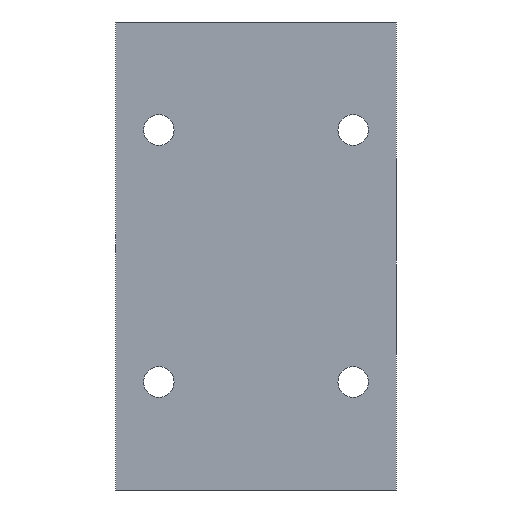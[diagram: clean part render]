
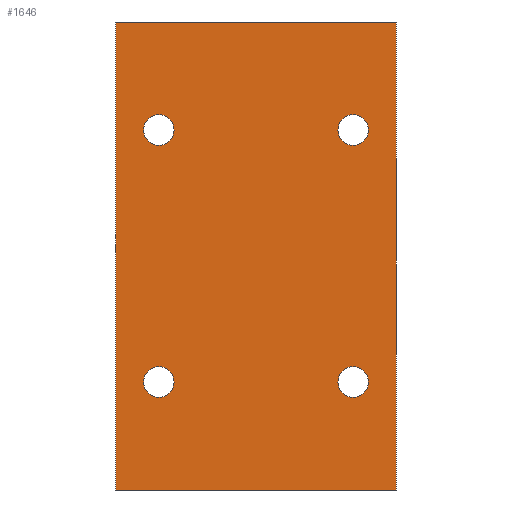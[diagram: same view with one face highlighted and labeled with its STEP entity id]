
A CAD part, front view. The second image highlights one B-rep face of the part: STEP entity #1646.
In plain terms, the highlighted planar face has unit normal (0, -1, 0).
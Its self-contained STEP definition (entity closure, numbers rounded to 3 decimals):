
#6 = VERTEX_POINT ( 'NONE', #1484 ) ;
#17 = CIRCLE ( 'NONE', #497, 4.25 ) ;
#18 = CARTESIAN_POINT ( 'NONE',  ( 39., -30., 65. ) ) ;
#34 = ORIENTED_EDGE ( 'NONE', *, *, #1710, .F. ) ;
#73 = FACE_BOUND ( 'NONE', #1876, .T. ) ;
#79 = DIRECTION ( 'NONE',  ( 0., -1., 0. ) ) ;
#92 = ORIENTED_EDGE ( 'NONE', *, *, #552, .F. ) ;
#127 = ORIENTED_EDGE ( 'NONE', *, *, #1261, .F. ) ;
#129 = DIRECTION ( 'NONE',  ( 0., 0., -1. ) ) ;
#140 = CARTESIAN_POINT ( 'NONE',  ( -27., -30., -30.75 ) ) ;
#167 = VERTEX_POINT ( 'NONE', #140 ) ;
#213 = CIRCLE ( 'NONE', #500, 4.25 ) ;
#215 = FACE_BOUND ( 'NONE', #1781, .T. ) ;
#234 = LINE ( 'NONE', #929, #683 ) ;
#236 = CARTESIAN_POINT ( 'NONE',  ( 27., -30., 35. ) ) ;
#261 = EDGE_CURVE ( 'NONE', #1835, #1976, #1370, .T. ) ;
#292 = DIRECTION ( 'NONE',  ( 0., -1., 0. ) ) ;
#383 = DIRECTION ( 'NONE',  ( 0., -1., 0. ) ) ;
#387 = ORIENTED_EDGE ( 'NONE', *, *, #1081, .F. ) ;
#398 = CARTESIAN_POINT ( 'NONE',  ( 27., -30., -35. ) ) ;
#435 = AXIS2_PLACEMENT_3D ( 'NONE', #1515, #292, #2191 ) ;
#451 = CARTESIAN_POINT ( 'NONE',  ( 27., -30., 39.25 ) ) ;
#454 = CARTESIAN_POINT ( 'NONE',  ( 27., -30., -39.25 ) ) ;
#497 = AXIS2_PLACEMENT_3D ( 'NONE', #236, #2117, #585 ) ;
#500 = AXIS2_PLACEMENT_3D ( 'NONE', #1951, #79, #2125 ) ;
#501 = CARTESIAN_POINT ( 'NONE',  ( -39., -30., 65. ) ) ;
#518 = ORIENTED_EDGE ( 'NONE', *, *, #2050, .F. ) ;
#519 = LINE ( 'NONE', #1038, #897 ) ;
#520 = DIRECTION ( 'NONE',  ( 0., 0., -1. ) ) ;
#521 = ORIENTED_EDGE ( 'NONE', *, *, #1807, .F. ) ;
#533 = AXIS2_PLACEMENT_3D ( 'NONE', #770, #1452, #2128 ) ;
#542 = VERTEX_POINT ( 'NONE', #501 ) ;
#552 = EDGE_CURVE ( 'NONE', #2234, #167, #1388, .T. ) ;
#582 = CARTESIAN_POINT ( 'NONE',  ( 27., -30., -30.75 ) ) ;
#585 = DIRECTION ( 'NONE',  ( 0., 0., -1. ) ) ;
#590 = LINE ( 'NONE', #18, #1647 ) ;
#596 = CARTESIAN_POINT ( 'NONE',  ( -27., -30., 39.25 ) ) ;
#606 = FACE_BOUND ( 'NONE', #1695, .T. ) ;
#650 = CARTESIAN_POINT ( 'NONE',  ( -27., -30., -39.25 ) ) ;
#661 = DIRECTION ( 'NONE',  ( 0., -1., 0. ) ) ;
#683 = VECTOR ( 'NONE', #910, 1000. ) ;
#695 = AXIS2_PLACEMENT_3D ( 'NONE', #1366, #661, #129 ) ;
#743 = ORIENTED_EDGE ( 'NONE', *, *, #1641, .T. ) ;
#756 = CARTESIAN_POINT ( 'NONE',  ( -39., -30., 65. ) ) ;
#766 = EDGE_CURVE ( 'NONE', #2210, #6, #590, .T. ) ;
#770 = CARTESIAN_POINT ( 'NONE',  ( -39., -30., 65. ) ) ;
#790 = CARTESIAN_POINT ( 'NONE',  ( 39., -30., 65. ) ) ;
#798 = EDGE_CURVE ( 'NONE', #1996, #1008, #2099, .T. ) ;
#809 = EDGE_LOOP ( 'NONE', ( #127, #1195 ) ) ;
#855 = DIRECTION ( 'NONE',  ( 0., -1., 0. ) ) ;
#868 = CIRCLE ( 'NONE', #1513, 4.25 ) ;
#897 = VECTOR ( 'NONE', #1731, 1000. ) ;
#910 = DIRECTION ( 'NONE',  ( 1., 0., 0. ) ) ;
#929 = CARTESIAN_POINT ( 'NONE',  ( -39., -30., -65. ) ) ;
#941 = DIRECTION ( 'NONE',  ( 0., 0., -1. ) ) ;
#951 = VERTEX_POINT ( 'NONE', #1812 ) ;
#1004 = DIRECTION ( 'NONE',  ( 0., -1., 0. ) ) ;
#1008 = VERTEX_POINT ( 'NONE', #454 ) ;
#1038 = CARTESIAN_POINT ( 'NONE',  ( -39., -30., 65. ) ) ;
#1052 = CARTESIAN_POINT ( 'NONE',  ( -27., -30., 30.75 ) ) ;
#1081 = EDGE_CURVE ( 'NONE', #542, #2210, #519, .T. ) ;
#1103 = FACE_BOUND ( 'NONE', #809, .T. ) ;
#1137 = AXIS2_PLACEMENT_3D ( 'NONE', #1189, #855, #520 ) ;
#1174 = VERTEX_POINT ( 'NONE', #596 ) ;
#1189 = CARTESIAN_POINT ( 'NONE',  ( -27., -30., -35. ) ) ;
#1195 = ORIENTED_EDGE ( 'NONE', *, *, #261, .F. ) ;
#1219 = CARTESIAN_POINT ( 'NONE',  ( 27., -30., 30.75 ) ) ;
#1249 = DIRECTION ( 'NONE',  ( 0., 0., -1. ) ) ;
#1261 = EDGE_CURVE ( 'NONE', #1976, #1835, #17, .T. ) ;
#1263 = FACE_OUTER_BOUND ( 'NONE', #1867, .T. ) ;
#1274 = PLANE ( 'NONE',  #533 ) ;
#1305 = DIRECTION ( 'NONE',  ( 0., 0., -1. ) ) ;
#1318 = CIRCLE ( 'NONE', #2069, 4.25 ) ;
#1342 = ORIENTED_EDGE ( 'NONE', *, *, #798, .F. ) ;
#1366 = CARTESIAN_POINT ( 'NONE',  ( 27., -30., 35. ) ) ;
#1370 = CIRCLE ( 'NONE', #695, 4.25 ) ;
#1388 = CIRCLE ( 'NONE', #1137, 4.25 ) ;
#1404 = ORIENTED_EDGE ( 'NONE', *, *, #766, .F. ) ;
#1424 = LINE ( 'NONE', #756, #1620 ) ;
#1452 = DIRECTION ( 'NONE',  ( 0., 1., 0. ) ) ;
#1484 = CARTESIAN_POINT ( 'NONE',  ( 39., -30., -65. ) ) ;
#1513 = AXIS2_PLACEMENT_3D ( 'NONE', #1676, #1004, #1305 ) ;
#1515 = CARTESIAN_POINT ( 'NONE',  ( -27., -30., -35. ) ) ;
#1568 = VERTEX_POINT ( 'NONE', #1052 ) ;
#1611 = AXIS2_PLACEMENT_3D ( 'NONE', #1743, #1754, #1249 ) ;
#1617 = CIRCLE ( 'NONE', #435, 4.25 ) ;
#1620 = VECTOR ( 'NONE', #941, 1000. ) ;
#1641 = EDGE_CURVE ( 'NONE', #951, #6, #234, .T. ) ;
#1646 = ADVANCED_FACE ( 'NONE', ( #215, #1263, #1103, #73, #606 ), #1274, .F. ) ;
#1647 = VECTOR ( 'NONE', #1906, 1000. ) ;
#1663 = ORIENTED_EDGE ( 'NONE', *, *, #2141, .F. ) ;
#1676 = CARTESIAN_POINT ( 'NONE',  ( -27., -30., 35. ) ) ;
#1695 = EDGE_LOOP ( 'NONE', ( #518, #1342 ) ) ;
#1710 = EDGE_CURVE ( 'NONE', #167, #2234, #1617, .T. ) ;
#1717 = ORIENTED_EDGE ( 'NONE', *, *, #2082, .T. ) ;
#1731 = DIRECTION ( 'NONE',  ( 1., 0., 0. ) ) ;
#1743 = CARTESIAN_POINT ( 'NONE',  ( 27., -30., -35. ) ) ;
#1754 = DIRECTION ( 'NONE',  ( 0., -1., 0. ) ) ;
#1781 = EDGE_LOOP ( 'NONE', ( #1663, #521 ) ) ;
#1807 = EDGE_CURVE ( 'NONE', #1174, #1568, #868, .T. ) ;
#1812 = CARTESIAN_POINT ( 'NONE',  ( -39., -30., -65. ) ) ;
#1835 = VERTEX_POINT ( 'NONE', #451 ) ;
#1867 = EDGE_LOOP ( 'NONE', ( #743, #1404, #387, #1717 ) ) ;
#1876 = EDGE_LOOP ( 'NONE', ( #92, #34 ) ) ;
#1906 = DIRECTION ( 'NONE',  ( 0., 0., -1. ) ) ;
#1951 = CARTESIAN_POINT ( 'NONE',  ( -27., -30., 35. ) ) ;
#1976 = VERTEX_POINT ( 'NONE', #1219 ) ;
#1996 = VERTEX_POINT ( 'NONE', #582 ) ;
#2050 = EDGE_CURVE ( 'NONE', #1008, #1996, #1318, .T. ) ;
#2069 = AXIS2_PLACEMENT_3D ( 'NONE', #398, #383, #2090 ) ;
#2082 = EDGE_CURVE ( 'NONE', #542, #951, #1424, .T. ) ;
#2090 = DIRECTION ( 'NONE',  ( 0., 0., -1. ) ) ;
#2099 = CIRCLE ( 'NONE', #1611, 4.25 ) ;
#2117 = DIRECTION ( 'NONE',  ( 0., -1., 0. ) ) ;
#2125 = DIRECTION ( 'NONE',  ( 0., 0., -1. ) ) ;
#2128 = DIRECTION ( 'NONE',  ( 0., 0., 1. ) ) ;
#2141 = EDGE_CURVE ( 'NONE', #1568, #1174, #213, .T. ) ;
#2191 = DIRECTION ( 'NONE',  ( 0., 0., -1. ) ) ;
#2210 = VERTEX_POINT ( 'NONE', #790 ) ;
#2234 = VERTEX_POINT ( 'NONE', #650 ) ;
